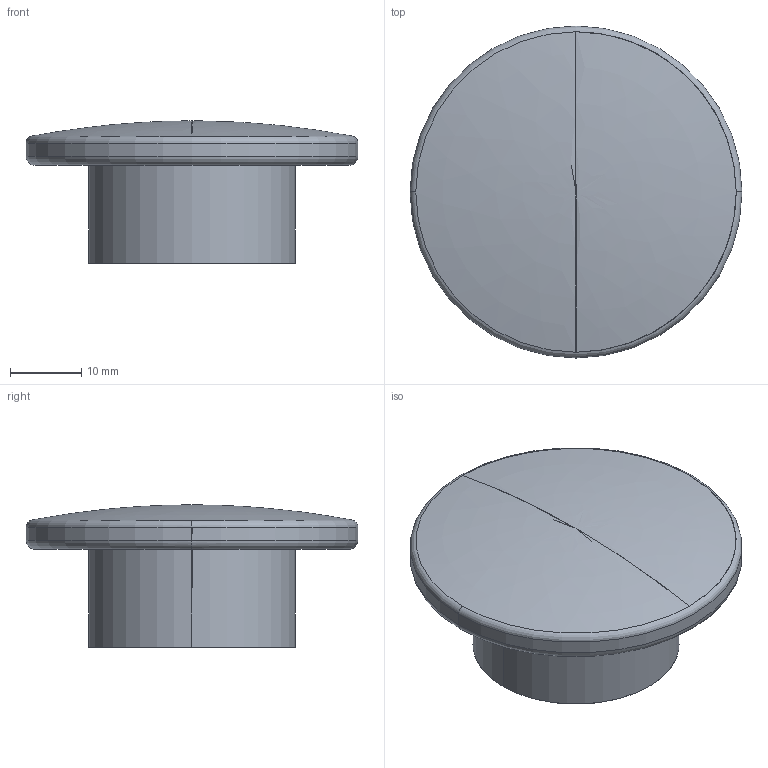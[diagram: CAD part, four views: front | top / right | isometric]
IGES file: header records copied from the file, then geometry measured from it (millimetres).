
Start section: Comment
Global section: file name: 0104-47.igs; native system: Parasolid(12.0); preprocessor: Pariges 4.4; author: Author; organization: Title; date: 20181104.075157; units: millimetre
Bounding box: 46.7 x 46.7 x 20 mm (x, y, z)
Surface area: 7516.9 mm2 (no closed solid volume)
Topology: 0 solids, 0 shells, 32 faces, 321 edges, 319 vertices
Faces by surface type: revolution 29, extrusion 3
